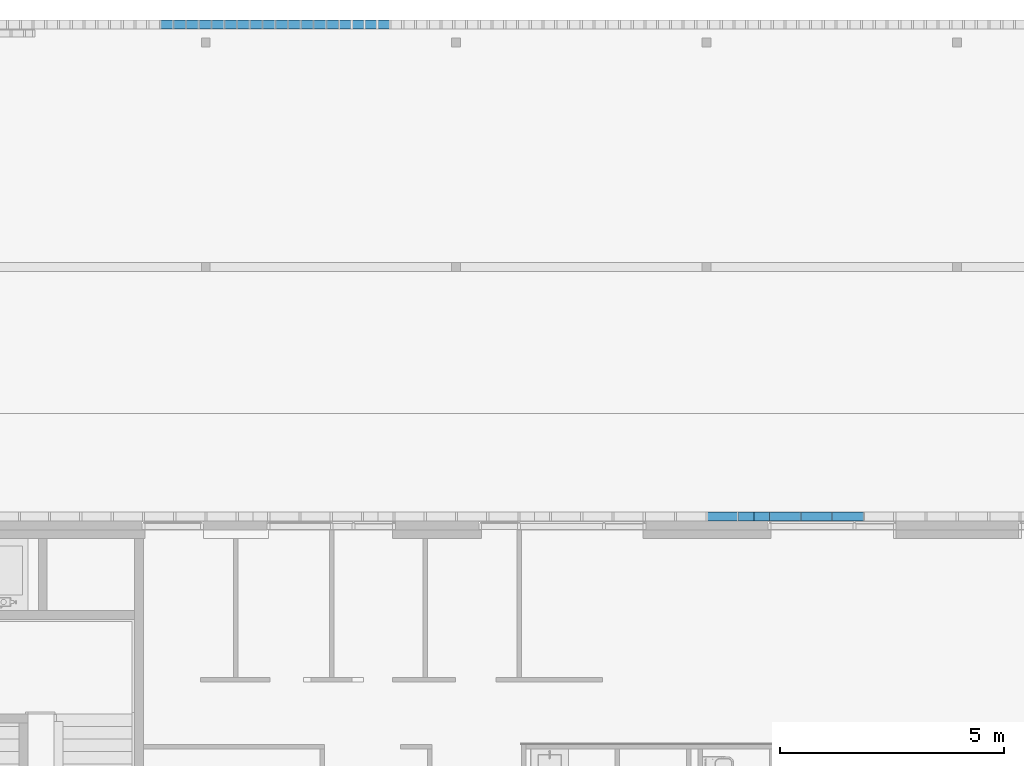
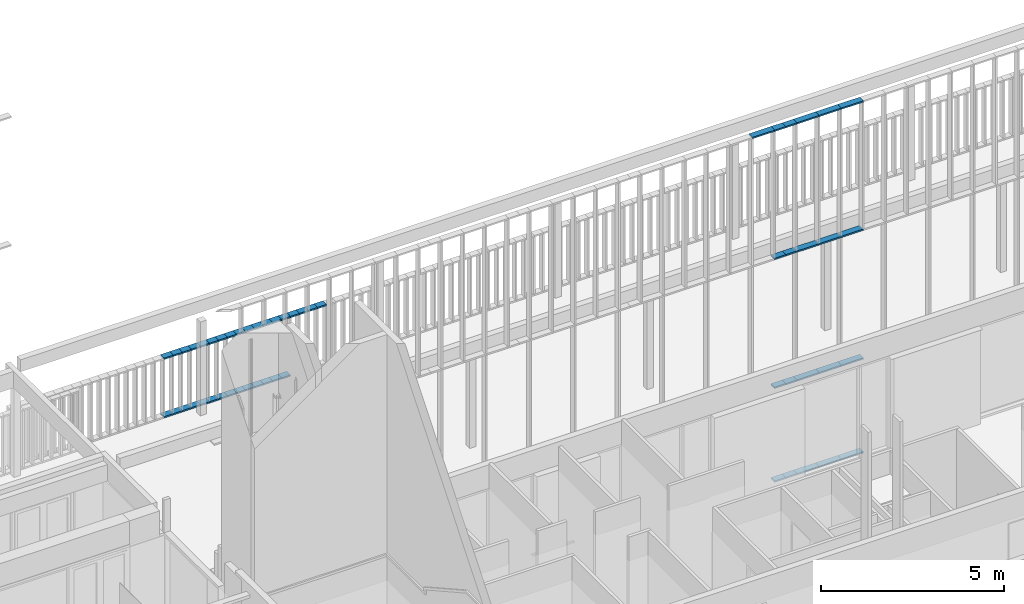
# One storey, part 52 of 240: 53 members, 2 elements without a shape of their own.
"""IFC2X3 building model written with IfcOpenShell, lengths in centimetres."""

from ifc_helpers import new_model, entity, si_unit, converted_unit, derived_unit, direction, frame, origin, origin_2d_with_axis, place, context, subcontext, project, spatial, rectangle, extrude, source, transform, mapped, material, type_object, type_shapes, element, aggregate, save


model = new_model("IFC2X3")

# Units and contexts
model_context = context("Model", 3, precision=0.001, world=origin(), true_north=direction((6.12303176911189e-17, 1.0)))
body_context = subcontext(model_context, "Body", "Model", "MODEL_VIEW")
ifc_project = project(units=[si_unit("LENGTHUNIT", "METRE", prefix="CENTI"), si_unit("AREAUNIT", "SQUARE_METRE"), si_unit("VOLUMEUNIT", "CUBIC_METRE"), converted_unit("PLANEANGLEUNIT", "DEGREE", entity("IfcRatioMeasure", 0.0174532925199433), si_unit("PLANEANGLEUNIT", "RADIAN"), dimensions=[0, 0, 0, 0, 0, 0, 0]), si_unit("MASSUNIT", "GRAM", prefix="KILO"), derived_unit("MASSDENSITYUNIT", [(si_unit("MASSUNIT", "GRAM", prefix="KILO"), 1), (si_unit("LENGTHUNIT", "METRE"), -3)]), si_unit("TIMEUNIT", "SECOND"), si_unit("FREQUENCYUNIT", "HERTZ"), si_unit("THERMODYNAMICTEMPERATUREUNIT", "DEGREE_CELSIUS"), derived_unit("THERMALTRANSMITTANCEUNIT", [(si_unit("MASSUNIT", "GRAM", prefix="KILO"), 1), (si_unit("THERMODYNAMICTEMPERATUREUNIT", "KELVIN"), -1), (si_unit("TIMEUNIT", "SECOND"), -3)]), derived_unit("VOLUMETRICFLOWRATEUNIT", [(si_unit("LENGTHUNIT", "METRE"), 3), (si_unit("TIMEUNIT", "SECOND"), -1)]), si_unit("ELECTRICCURRENTUNIT", "AMPERE"), si_unit("ELECTRICVOLTAGEUNIT", "VOLT"), si_unit("POWERUNIT", "WATT"), si_unit("FORCEUNIT", "NEWTON", prefix="KILO"), si_unit("ILLUMINANCEUNIT", "LUX"), si_unit("LUMINOUSFLUXUNIT", "LUMEN"), si_unit("LUMINOUSINTENSITYUNIT", "CANDELA"), derived_unit("USERDEFINED", [(si_unit("MASSUNIT", "GRAM", prefix="KILO"), -1), (si_unit("LENGTHUNIT", "METRE"), -2), (si_unit("TIMEUNIT", "SECOND"), 3), (si_unit("LUMINOUSFLUXUNIT", "LUMEN"), 1)]), derived_unit("LINEARVELOCITYUNIT", [(si_unit("LENGTHUNIT", "METRE"), 1), (si_unit("TIMEUNIT", "SECOND"), -1)]), si_unit("PRESSUREUNIT", "PASCAL"), derived_unit("USERDEFINED", [(si_unit("LENGTHUNIT", "METRE"), -2), (si_unit("MASSUNIT", "GRAM", prefix="KILO"), 1), (si_unit("TIMEUNIT", "SECOND"), -2)])], contexts=[model_context])

# Site, building, storey
site_placement = place(None, frame((-2781.94577612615, 7442.24238424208, 0.0)))
site = spatial("IfcSite", under=ifc_project, at=site_placement, Name="Default", CompositionType="ELEMENT")
building_placement = place(site_placement, origin())
building = spatial("IfcBuilding", under=site, at=building_placement, CompositionType="ELEMENT")
storey_placement = place(building_placement, origin())
storey = spatial("IfcBuildingStorey", under=building, at=storey_placement, Name="N00 - COO", CompositionType="ELEMENT", Elevation=0.0)

# Curtain wall, members
curtain_wall_type_1 = type_object("IfcCurtainWallType", Name="Mur-rideau:Epines - 200x30mm", PredefinedType="NOTDEFINED")
curtain_wall_1_placement = place(storey_placement, origin())
curtain_wall_1 = element("IfcCurtainWall", 1, at=curtain_wall_1_placement, inside=storey, type_object=curtain_wall_type_1, Name="Mur-rideau:Epines - 200x30mm", ObjectType="Mur-rideau:Epines - 200x30mm")
ifc_material = material(Name="Aluminium")
member_type_1 = type_object("IfcMemberType", Name="200x50 mm", PredefinedType="MEMBER")
shared_shape_1 = source(origin(), body_context, "Body", "SweptSolid", [
    extrude(rectangle(XDim=20.0, YDim=5.0, at=origin_2d_with_axis()), frame((-2.5, 0.0, -70.0), z_axis=(0.0, 0.0, 1.0), x_axis=(0.0, -1.0, 0.0)), (0.0, 0.0, 1.0), 70.0000000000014),
])
type_shapes(member_type_1, [shared_shape_1])
member_1_placement = place(storey_placement, frame((-1669.29988284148, -1060.0, 1176.0), z_axis=(1.0, 0.0, 0.0), x_axis=(0.0, 0.0, 1.0)))
member_1 = element("IfcMember", 2, at=member_1_placement, type_object=member_type_1, material=ifc_material, Name="Meneau rectangulaire:200x50 mm", ObjectType="Meneau rectangulaire:200x50 mm", context=body_context, shape_type="MappedRepresentation", body=[
    mapped(shared_shape_1, transform((0.0, 0.0, 0.0), scale=1.0)),
])
member_2_placement = place(storey_placement, frame((-1599.29988284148, -1060.0, 1176.0), z_axis=(1.0, 0.0, 0.0), x_axis=(0.0, 0.0, 1.0)))
member_2 = element("IfcMember", 3, at=member_2_placement, type_object=member_type_1, material=ifc_material, Name="Meneau rectangulaire:200x50 mm", ObjectType="Meneau rectangulaire:200x50 mm", context=body_context, shape_type="MappedRepresentation", body=[
    mapped(shared_shape_1, transform((0.0, 0.0, 0.0), scale=1.0)),
])
member_3_placement = place(storey_placement, frame((-1739.29988284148, -1060.0, 1176.0), z_axis=(1.0, 0.0, 0.0), x_axis=(0.0, 0.0, 1.0)))
member_3 = element("IfcMember", 4, at=member_3_placement, type_object=member_type_1, material=ifc_material, Name="Meneau rectangulaire:200x50 mm", ObjectType="Meneau rectangulaire:200x50 mm", context=body_context, shape_type="MappedRepresentation", body=[
    mapped(shared_shape_1, transform((0.0, 0.0, 0.0), scale=1.0)),
])
member_4_placement = place(storey_placement, frame((-1879.29988284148, -1060.0, 1176.0), z_axis=(1.0, 0.0, 0.0), x_axis=(0.0, 0.0, 1.0)))
member_4 = element("IfcMember", 5, at=member_4_placement, type_object=member_type_1, material=ifc_material, Name="Meneau rectangulaire:200x50 mm", ObjectType="Meneau rectangulaire:200x50 mm", context=body_context, shape_type="MappedRepresentation", body=[
    mapped(shared_shape_1, transform((0.0, 0.0, 0.0), scale=1.0)),
])
member_type_2 = type_object("IfcMemberType", Name="200x50 mm", PredefinedType="MEMBER")
shared_shape_2 = source(origin(), body_context, "Body", "SweptSolid", [
    extrude(rectangle(XDim=20.0, YDim=5.0, at=origin_2d_with_axis()), frame((-2.5, 0.0, -70.0), z_axis=(0.0, 0.0, 1.0), x_axis=(0.0, -1.0, 0.0)), (0.0, 0.0, 1.0), 70.0000000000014),
])
type_shapes(member_type_2, [shared_shape_2])
member_5_placement = place(storey_placement, frame((-1809.29988284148, -1060.0, 0.0), z_axis=(-1.0, 0.0, 0.0), x_axis=(0.0, 0.0, -1.0)))
member_5 = element("IfcMember", 6, at=member_5_placement, type_object=member_type_2, material=ifc_material, Name="Meneau rectangulaire:200x50 mm", ObjectType="Meneau rectangulaire:200x50 mm", context=body_context, shape_type="MappedRepresentation", body=[
    mapped(shared_shape_2, transform((0.0, 0.0, 0.0), scale=1.0)),
])
member_type_3 = type_object("IfcMemberType", Name="200x50 mm", PredefinedType="MEMBER")
shared_shape_3 = source(origin(), body_context, "Body", "SweptSolid", [
    extrude(rectangle(XDim=20.0, YDim=5.0, at=origin_2d_with_axis()), frame((0.0, 0.0, -70.0), z_axis=(0.0, 0.0, 1.0), x_axis=(0.0, -1.0, 0.0)), (0.0, 0.0, 1.0), 70.0000000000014),
])
type_shapes(member_type_3, [shared_shape_3])
member_6_placement = place(storey_placement, frame((-1739.29988284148, -1060.0, 315.5), z_axis=(1.0, 0.0, 0.0), x_axis=(0.0, 0.0, 1.0)))
member_6 = element("IfcMember", 7, at=member_6_placement, type_object=member_type_3, material=ifc_material, Name="Meneau rectangulaire:200x50 mm", ObjectType="Meneau rectangulaire:200x50 mm", context=body_context, shape_type="MappedRepresentation", body=[
    mapped(shared_shape_3, transform((0.0, 0.0, 0.0), scale=1.0)),
])
member_7_placement = place(storey_placement, frame((-1599.29988284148, -1060.0, 315.5), z_axis=(1.0, 0.0, 0.0), x_axis=(0.0, 0.0, 1.0)))
member_7 = element("IfcMember", 8, at=member_7_placement, type_object=member_type_3, material=ifc_material, Name="Meneau rectangulaire:200x50 mm", ObjectType="Meneau rectangulaire:200x50 mm", context=body_context, shape_type="MappedRepresentation", body=[
    mapped(shared_shape_3, transform((0.0, 0.0, 0.0), scale=1.0)),
])
member_type_4 = type_object("IfcMemberType", Name="200x50 mm", PredefinedType="MEMBER")
shared_shape_4 = source(origin(), body_context, "Body", "SweptSolid", [
    extrude(rectangle(XDim=20.0, YDim=5.0, at=origin_2d_with_axis()), frame((0.0, 0.0, -70.0), z_axis=(0.0, 0.0, 1.0), x_axis=(0.0, -1.0, 0.0)), (0.0, 0.0, 1.0), 70.0000000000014),
])
type_shapes(member_type_4, [shared_shape_4])
member_8_placement = place(storey_placement, frame((-1739.29988284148, -1060.0, 745.5), z_axis=(1.0, 0.0, 0.0), x_axis=(0.0, 0.0, 1.0)))
member_8 = element("IfcMember", 9, at=member_8_placement, type_object=member_type_4, material=ifc_material, Name="Meneau rectangulaire:200x50 mm", ObjectType="Meneau rectangulaire:200x50 mm", context=body_context, shape_type="MappedRepresentation", body=[
    mapped(shared_shape_4, transform((0.0, 0.0, 0.0), scale=1.0)),
])
member_9_placement = place(storey_placement, frame((-1599.29988284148, -1060.0, 745.5), z_axis=(1.0, 0.0, 0.0), x_axis=(0.0, 0.0, 1.0)))
member_9 = element("IfcMember", 10, at=member_9_placement, type_object=member_type_4, material=ifc_material, Name="Meneau rectangulaire:200x50 mm", ObjectType="Meneau rectangulaire:200x50 mm", context=body_context, shape_type="MappedRepresentation", body=[
    mapped(shared_shape_4, transform((0.0, 0.0, 0.0), scale=1.0)),
])
member_10_placement = place(storey_placement, frame((-1669.29988284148, -1060.0, 745.5), z_axis=(1.0, 0.0, 0.0), x_axis=(0.0, 0.0, 1.0)))
member_10 = element("IfcMember", 11, at=member_10_placement, type_object=member_type_4, material=ifc_material, Name="Meneau rectangulaire:200x50 mm", ObjectType="Meneau rectangulaire:200x50 mm", context=body_context, shape_type="MappedRepresentation", body=[
    mapped(shared_shape_4, transform((0.0, 0.0, 0.0), scale=1.0)),
])
member_type_5 = type_object("IfcMemberType", Name="200x50 mm", PredefinedType="MEMBER")
shared_shape_5 = source(origin(), body_context, "Body", "SweptSolid", [
    extrude(rectangle(XDim=20.0, YDim=5.0, at=origin_2d_with_axis()), frame((-2.5, 0.0, -70.0), z_axis=(0.0, 0.0, 1.0), x_axis=(0.0, -1.0, 0.0)), (0.0, 0.0, 1.0), 69.9999999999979),
])
type_shapes(member_type_5, [shared_shape_5])
member_11_placement = place(storey_placement, frame((-1669.29988284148, -1060.0, 0.0), z_axis=(-1.0, 0.0, 0.0), x_axis=(0.0, 0.0, -1.0)))
member_11 = element("IfcMember", 12, at=member_11_placement, type_object=member_type_5, material=ifc_material, Name="Meneau rectangulaire:200x50 mm", ObjectType="Meneau rectangulaire:200x50 mm", context=body_context, shape_type="MappedRepresentation", body=[
    mapped(shared_shape_5, transform((0.0, 0.0, 0.0), scale=1.0)),
])
member_12_placement = place(storey_placement, frame((-1739.29988284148, -1060.0, 0.0), z_axis=(-1.0, 0.0, 0.0), x_axis=(0.0, 0.0, -1.0)))
member_12 = element("IfcMember", 13, at=member_12_placement, type_object=member_type_5, material=ifc_material, Name="Meneau rectangulaire:200x50 mm", ObjectType="Meneau rectangulaire:200x50 mm", context=body_context, shape_type="MappedRepresentation", body=[
    mapped(shared_shape_5, transform((0.0, 0.0, 0.0), scale=1.0)),
])
member_type_6 = type_object("IfcMemberType", Name="200x50 mm", PredefinedType="MEMBER")
shared_shape_6 = source(origin(), body_context, "Body", "SweptSolid", [
    extrude(rectangle(XDim=20.0, YDim=5.0, at=origin_2d_with_axis()), frame((0.0, 0.0, -70.0), z_axis=(0.0, 0.0, 1.0), x_axis=(0.0, -1.0, 0.0)), (0.0, 0.0, 1.0), 70.0000000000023),
])
type_shapes(member_type_6, [shared_shape_6])
member_13_placement = place(storey_placement, frame((-1669.29988284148, -1060.0, 315.5), z_axis=(1.0, 0.0, 0.0), x_axis=(0.0, 0.0, 1.0)))
member_13 = element("IfcMember", 14, at=member_13_placement, type_object=member_type_6, material=ifc_material, Name="Meneau rectangulaire:200x50 mm", ObjectType="Meneau rectangulaire:200x50 mm", context=body_context, shape_type="MappedRepresentation", body=[
    mapped(shared_shape_6, transform((0.0, 0.0, 0.0), scale=1.0)),
])

curtain_wall_type_2 = type_object("IfcCurtainWallType", Name="Mur-rideau:SR-Clôture", PredefinedType="NOTDEFINED")
curtain_wall_2_placement = place(building_placement, origin())
curtain_wall_2 = element("IfcCurtainWall", 15, at=curtain_wall_2_placement, inside=storey, type_object=curtain_wall_type_2, Name="Mur-rideau:SR-Clôture", ObjectType="Mur-rideau:SR-Clôture")
member_type_7 = type_object("IfcMemberType", Name="Epine nord (200x50 mm)", PredefinedType="MEMBER")
shared_shape_7 = source(origin(), body_context, "Body", "SweptSolid", [
    extrude(rectangle(XDim=20.0, YDim=5.0, at=origin_2d_with_axis()), frame((-2.5, 0.0, -28.5000000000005), z_axis=(0.0, 0.0, 1.0), x_axis=(0.0, -1.0, 0.0)), (0.0, 0.0, 1.0), 28.5000000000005),
])
type_shapes(member_type_7, [shared_shape_7])
member_14_placement = place(building_placement, frame((-3142.49987965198, 40.0, 200.0), z_axis=(1.0, 0.0, 0.0), x_axis=(0.0, 0.0, 1.0)))
member_14 = element("IfcMember", 16, at=member_14_placement, type_object=member_type_7, material=ifc_material, Name="Meneau rectangulaire:Epine nord (200x50 mm)", ObjectType="Meneau rectangulaire:Epine nord (200x50 mm)", context=body_context, shape_type="MappedRepresentation", body=[
    mapped(shared_shape_7, transform((0.0, 0.0, 0.0), scale=1.0)),
])
member_15_placement = place(building_placement, frame((-3113.99987965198, 40.0, 200.0), z_axis=(1.0, 0.0, 0.0), x_axis=(0.0, 0.0, 1.0)))
member_15 = element("IfcMember", 17, at=member_15_placement, type_object=member_type_7, material=ifc_material, Name="Meneau rectangulaire:Epine nord (200x50 mm)", ObjectType="Meneau rectangulaire:Epine nord (200x50 mm)", context=body_context, shape_type="MappedRepresentation", body=[
    mapped(shared_shape_7, transform((0.0, 0.0, 0.0), scale=1.0)),
])
member_16_placement = place(building_placement, frame((-3085.49987965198, 40.0, 200.0), z_axis=(1.0, 0.0, 0.0), x_axis=(0.0, 0.0, 1.0)))
member_16 = element("IfcMember", 18, at=member_16_placement, type_object=member_type_7, material=ifc_material, Name="Meneau rectangulaire:Epine nord (200x50 mm)", ObjectType="Meneau rectangulaire:Epine nord (200x50 mm)", context=body_context, shape_type="MappedRepresentation", body=[
    mapped(shared_shape_7, transform((0.0, 0.0, 0.0), scale=1.0)),
])
member_17_placement = place(building_placement, frame((-3056.99987965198, 40.0, 200.0), z_axis=(1.0, 0.0, 0.0), x_axis=(0.0, 0.0, 1.0)))
member_17 = element("IfcMember", 19, at=member_17_placement, type_object=member_type_7, material=ifc_material, Name="Meneau rectangulaire:Epine nord (200x50 mm)", ObjectType="Meneau rectangulaire:Epine nord (200x50 mm)", context=body_context, shape_type="MappedRepresentation", body=[
    mapped(shared_shape_7, transform((0.0, 0.0, 0.0), scale=1.0)),
])
member_18_placement = place(building_placement, frame((-3028.49987965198, 40.0, 200.0), z_axis=(1.0, 0.0, 0.0), x_axis=(0.0, 0.0, 1.0)))
member_18 = element("IfcMember", 20, at=member_18_placement, type_object=member_type_7, material=ifc_material, Name="Meneau rectangulaire:Epine nord (200x50 mm)", ObjectType="Meneau rectangulaire:Epine nord (200x50 mm)", context=body_context, shape_type="MappedRepresentation", body=[
    mapped(shared_shape_7, transform((0.0, 0.0, 0.0), scale=1.0)),
])
member_19_placement = place(building_placement, frame((-2999.99987965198, 40.0, 200.0), z_axis=(1.0, 0.0, 0.0), x_axis=(0.0, 0.0, 1.0)))
member_19 = element("IfcMember", 21, at=member_19_placement, type_object=member_type_7, material=ifc_material, Name="Meneau rectangulaire:Epine nord (200x50 mm)", ObjectType="Meneau rectangulaire:Epine nord (200x50 mm)", context=body_context, shape_type="MappedRepresentation", body=[
    mapped(shared_shape_7, transform((0.0, 0.0, 0.0), scale=1.0)),
])
member_20_placement = place(building_placement, frame((-2971.49987965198, 40.0, 200.0), z_axis=(1.0, 0.0, 0.0), x_axis=(0.0, 0.0, 1.0)))
member_20 = element("IfcMember", 22, at=member_20_placement, type_object=member_type_7, material=ifc_material, Name="Meneau rectangulaire:Epine nord (200x50 mm)", ObjectType="Meneau rectangulaire:Epine nord (200x50 mm)", context=body_context, shape_type="MappedRepresentation", body=[
    mapped(shared_shape_7, transform((0.0, 0.0, 0.0), scale=1.0)),
])
member_21_placement = place(building_placement, frame((-2942.99987965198, 40.0, 200.0), z_axis=(1.0, 0.0, 0.0), x_axis=(0.0, 0.0, 1.0)))
member_21 = element("IfcMember", 23, at=member_21_placement, type_object=member_type_7, material=ifc_material, Name="Meneau rectangulaire:Epine nord (200x50 mm)", ObjectType="Meneau rectangulaire:Epine nord (200x50 mm)", context=body_context, shape_type="MappedRepresentation", body=[
    mapped(shared_shape_7, transform((0.0, 0.0, 0.0), scale=1.0)),
])
member_22_placement = place(building_placement, frame((-2914.49987965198, 40.0, 200.0), z_axis=(1.0, 0.0, 0.0), x_axis=(0.0, 0.0, 1.0)))
member_22 = element("IfcMember", 24, at=member_22_placement, type_object=member_type_7, material=ifc_material, Name="Meneau rectangulaire:Epine nord (200x50 mm)", ObjectType="Meneau rectangulaire:Epine nord (200x50 mm)", context=body_context, shape_type="MappedRepresentation", body=[
    mapped(shared_shape_7, transform((0.0, 0.0, 0.0), scale=1.0)),
])
member_23_placement = place(building_placement, frame((-2885.99987965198, 40.0, 200.0), z_axis=(1.0, 0.0, 0.0), x_axis=(0.0, 0.0, 1.0)))
member_23 = element("IfcMember", 25, at=member_23_placement, type_object=member_type_7, material=ifc_material, Name="Meneau rectangulaire:Epine nord (200x50 mm)", ObjectType="Meneau rectangulaire:Epine nord (200x50 mm)", context=body_context, shape_type="MappedRepresentation", body=[
    mapped(shared_shape_7, transform((0.0, 0.0, 0.0), scale=1.0)),
])
member_24_placement = place(building_placement, frame((-2857.49987965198, 40.0, 200.0), z_axis=(1.0, 0.0, 0.0), x_axis=(0.0, 0.0, 1.0)))
member_24 = element("IfcMember", 26, at=member_24_placement, type_object=member_type_7, material=ifc_material, Name="Meneau rectangulaire:Epine nord (200x50 mm)", ObjectType="Meneau rectangulaire:Epine nord (200x50 mm)", context=body_context, shape_type="MappedRepresentation", body=[
    mapped(shared_shape_7, transform((0.0, 0.0, 0.0), scale=1.0)),
])
member_25_placement = place(building_placement, frame((-2828.99987965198, 40.0, 200.0), z_axis=(1.0, 0.0, 0.0), x_axis=(0.0, 0.0, 1.0)))
member_25 = element("IfcMember", 27, at=member_25_placement, type_object=member_type_7, material=ifc_material, Name="Meneau rectangulaire:Epine nord (200x50 mm)", ObjectType="Meneau rectangulaire:Epine nord (200x50 mm)", context=body_context, shape_type="MappedRepresentation", body=[
    mapped(shared_shape_7, transform((0.0, 0.0, 0.0), scale=1.0)),
])
member_26_placement = place(building_placement, frame((-2800.49987965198, 40.0, 200.0), z_axis=(1.0, 0.0, 0.0), x_axis=(0.0, 0.0, 1.0)))
member_26 = element("IfcMember", 28, at=member_26_placement, type_object=member_type_7, material=ifc_material, Name="Meneau rectangulaire:Epine nord (200x50 mm)", ObjectType="Meneau rectangulaire:Epine nord (200x50 mm)", context=body_context, shape_type="MappedRepresentation", body=[
    mapped(shared_shape_7, transform((0.0, 0.0, 0.0), scale=1.0)),
])
member_27_placement = place(building_placement, frame((-2771.99987965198, 40.0, 200.0), z_axis=(1.0, 0.0, 0.0), x_axis=(0.0, 0.0, 1.0)))
member_27 = element("IfcMember", 29, at=member_27_placement, type_object=member_type_7, material=ifc_material, Name="Meneau rectangulaire:Epine nord (200x50 mm)", ObjectType="Meneau rectangulaire:Epine nord (200x50 mm)", context=body_context, shape_type="MappedRepresentation", body=[
    mapped(shared_shape_7, transform((0.0, 0.0, 0.0), scale=1.0)),
])
member_28_placement = place(building_placement, frame((-2743.49987965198, 40.0, 200.0), z_axis=(1.0, 0.0, 0.0), x_axis=(0.0, 0.0, 1.0)))
member_28 = element("IfcMember", 30, at=member_28_placement, type_object=member_type_7, material=ifc_material, Name="Meneau rectangulaire:Epine nord (200x50 mm)", ObjectType="Meneau rectangulaire:Epine nord (200x50 mm)", context=body_context, shape_type="MappedRepresentation", body=[
    mapped(shared_shape_7, transform((0.0, 0.0, 0.0), scale=1.0)),
])
member_29_placement = place(building_placement, frame((-2714.99987965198, 40.0, 200.0), z_axis=(1.0, 0.0, 0.0), x_axis=(0.0, 0.0, 1.0)))
member_29 = element("IfcMember", 31, at=member_29_placement, type_object=member_type_7, material=ifc_material, Name="Meneau rectangulaire:Epine nord (200x50 mm)", ObjectType="Meneau rectangulaire:Epine nord (200x50 mm)", context=body_context, shape_type="MappedRepresentation", body=[
    mapped(shared_shape_7, transform((0.0, 0.0, 0.0), scale=1.0)),
])
member_30_placement = place(building_placement, frame((-2686.49987965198, 40.0, 200.0), z_axis=(1.0, 0.0, 0.0), x_axis=(0.0, 0.0, 1.0)))
member_30 = element("IfcMember", 32, at=member_30_placement, type_object=member_type_7, material=ifc_material, Name="Meneau rectangulaire:Epine nord (200x50 mm)", ObjectType="Meneau rectangulaire:Epine nord (200x50 mm)", context=body_context, shape_type="MappedRepresentation", body=[
    mapped(shared_shape_7, transform((0.0, 0.0, 0.0), scale=1.0)),
])
member_31_placement = place(building_placement, frame((-2657.99987965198, 40.0, 200.0), z_axis=(1.0, 0.0, 0.0), x_axis=(0.0, 0.0, 1.0)))
member_31 = element("IfcMember", 33, at=member_31_placement, type_object=member_type_7, material=ifc_material, Name="Meneau rectangulaire:Epine nord (200x50 mm)", ObjectType="Meneau rectangulaire:Epine nord (200x50 mm)", context=body_context, shape_type="MappedRepresentation", body=[
    mapped(shared_shape_7, transform((0.0, 0.0, 0.0), scale=1.0)),
])
member_type_8 = type_object("IfcMemberType", Name="Epine nord (200x50 mm)", PredefinedType="MEMBER")
shared_shape_8 = source(origin(), body_context, "Body", "SweptSolid", [
    extrude(rectangle(XDim=20.0, YDim=5.0, at=origin_2d_with_axis()), frame((-2.5, 0.0, -28.5000000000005), z_axis=(0.0, 0.0, 1.0), x_axis=(0.0, -1.0, 0.0)), (0.0, 0.0, 1.0), 28.5000000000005),
])
type_shapes(member_type_8, [shared_shape_8])
member_32_placement = place(building_placement, frame((-3170.99987965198, 40.0, 0.0), z_axis=(-1.0, 0.0, 0.0), x_axis=(0.0, 0.0, -1.0)))
member_32 = element("IfcMember", 34, at=member_32_placement, type_object=member_type_8, material=ifc_material, Name="Meneau rectangulaire:Epine nord (200x50 mm)", ObjectType="Meneau rectangulaire:Epine nord (200x50 mm)", context=body_context, shape_type="MappedRepresentation", body=[
    mapped(shared_shape_8, transform((0.0, 0.0, 0.0), scale=1.0)),
])
member_33_placement = place(building_placement, frame((-3142.49987965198, 40.0, 0.0), z_axis=(-1.0, 0.0, 0.0), x_axis=(0.0, 0.0, -1.0)))
member_33 = element("IfcMember", 35, at=member_33_placement, type_object=member_type_8, material=ifc_material, Name="Meneau rectangulaire:Epine nord (200x50 mm)", ObjectType="Meneau rectangulaire:Epine nord (200x50 mm)", context=body_context, shape_type="MappedRepresentation", body=[
    mapped(shared_shape_8, transform((0.0, 0.0, 0.0), scale=1.0)),
])
member_34_placement = place(building_placement, frame((-3113.99987965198, 40.0, 0.0), z_axis=(-1.0, 0.0, 0.0), x_axis=(0.0, 0.0, -1.0)))
member_34 = element("IfcMember", 36, at=member_34_placement, type_object=member_type_8, material=ifc_material, Name="Meneau rectangulaire:Epine nord (200x50 mm)", ObjectType="Meneau rectangulaire:Epine nord (200x50 mm)", context=body_context, shape_type="MappedRepresentation", body=[
    mapped(shared_shape_8, transform((0.0, 0.0, 0.0), scale=1.0)),
])
member_35_placement = place(building_placement, frame((-3085.49987965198, 40.0, 0.0), z_axis=(-1.0, 0.0, 0.0), x_axis=(0.0, 0.0, -1.0)))
member_35 = element("IfcMember", 37, at=member_35_placement, type_object=member_type_8, material=ifc_material, Name="Meneau rectangulaire:Epine nord (200x50 mm)", ObjectType="Meneau rectangulaire:Epine nord (200x50 mm)", context=body_context, shape_type="MappedRepresentation", body=[
    mapped(shared_shape_8, transform((0.0, 0.0, 0.0), scale=1.0)),
])
member_36_placement = place(building_placement, frame((-3056.99987965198, 40.0, 0.0), z_axis=(-1.0, 0.0, 0.0), x_axis=(0.0, 0.0, -1.0)))
member_36 = element("IfcMember", 38, at=member_36_placement, type_object=member_type_8, material=ifc_material, Name="Meneau rectangulaire:Epine nord (200x50 mm)", ObjectType="Meneau rectangulaire:Epine nord (200x50 mm)", context=body_context, shape_type="MappedRepresentation", body=[
    mapped(shared_shape_8, transform((0.0, 0.0, 0.0), scale=1.0)),
])
member_37_placement = place(building_placement, frame((-3028.49987965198, 40.0, 0.0), z_axis=(-1.0, 0.0, 0.0), x_axis=(0.0, 0.0, -1.0)))
member_37 = element("IfcMember", 39, at=member_37_placement, type_object=member_type_8, material=ifc_material, Name="Meneau rectangulaire:Epine nord (200x50 mm)", ObjectType="Meneau rectangulaire:Epine nord (200x50 mm)", context=body_context, shape_type="MappedRepresentation", body=[
    mapped(shared_shape_8, transform((0.0, 0.0, 0.0), scale=1.0)),
])
member_38_placement = place(building_placement, frame((-2999.99987965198, 40.0, 0.0), z_axis=(-1.0, 0.0, 0.0), x_axis=(0.0, 0.0, -1.0)))
member_38 = element("IfcMember", 40, at=member_38_placement, type_object=member_type_8, material=ifc_material, Name="Meneau rectangulaire:Epine nord (200x50 mm)", ObjectType="Meneau rectangulaire:Epine nord (200x50 mm)", context=body_context, shape_type="MappedRepresentation", body=[
    mapped(shared_shape_8, transform((0.0, 0.0, 0.0), scale=1.0)),
])
member_39_placement = place(building_placement, frame((-2971.49987965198, 40.0, 0.0), z_axis=(-1.0, 0.0, 0.0), x_axis=(0.0, 0.0, -1.0)))
member_39 = element("IfcMember", 41, at=member_39_placement, type_object=member_type_8, material=ifc_material, Name="Meneau rectangulaire:Epine nord (200x50 mm)", ObjectType="Meneau rectangulaire:Epine nord (200x50 mm)", context=body_context, shape_type="MappedRepresentation", body=[
    mapped(shared_shape_8, transform((0.0, 0.0, 0.0), scale=1.0)),
])
member_40_placement = place(building_placement, frame((-2942.99987965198, 40.0, 0.0), z_axis=(-1.0, 0.0, 0.0), x_axis=(0.0, 0.0, -1.0)))
member_40 = element("IfcMember", 42, at=member_40_placement, type_object=member_type_8, material=ifc_material, Name="Meneau rectangulaire:Epine nord (200x50 mm)", ObjectType="Meneau rectangulaire:Epine nord (200x50 mm)", context=body_context, shape_type="MappedRepresentation", body=[
    mapped(shared_shape_8, transform((0.0, 0.0, 0.0), scale=1.0)),
])
member_41_placement = place(building_placement, frame((-2914.49987965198, 40.0, 0.0), z_axis=(-1.0, 0.0, 0.0), x_axis=(0.0, 0.0, -1.0)))
member_41 = element("IfcMember", 43, at=member_41_placement, type_object=member_type_8, material=ifc_material, Name="Meneau rectangulaire:Epine nord (200x50 mm)", ObjectType="Meneau rectangulaire:Epine nord (200x50 mm)", context=body_context, shape_type="MappedRepresentation", body=[
    mapped(shared_shape_8, transform((0.0, 0.0, 0.0), scale=1.0)),
])
member_42_placement = place(building_placement, frame((-2885.99987965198, 40.0, 0.0), z_axis=(-1.0, 0.0, 0.0), x_axis=(0.0, 0.0, -1.0)))
member_42 = element("IfcMember", 44, at=member_42_placement, type_object=member_type_8, material=ifc_material, Name="Meneau rectangulaire:Epine nord (200x50 mm)", ObjectType="Meneau rectangulaire:Epine nord (200x50 mm)", context=body_context, shape_type="MappedRepresentation", body=[
    mapped(shared_shape_8, transform((0.0, 0.0, 0.0), scale=1.0)),
])
member_43_placement = place(building_placement, frame((-2857.49987965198, 40.0, 0.0), z_axis=(-1.0, 0.0, 0.0), x_axis=(0.0, 0.0, -1.0)))
member_43 = element("IfcMember", 45, at=member_43_placement, type_object=member_type_8, material=ifc_material, Name="Meneau rectangulaire:Epine nord (200x50 mm)", ObjectType="Meneau rectangulaire:Epine nord (200x50 mm)", context=body_context, shape_type="MappedRepresentation", body=[
    mapped(shared_shape_8, transform((0.0, 0.0, 0.0), scale=1.0)),
])
member_44_placement = place(building_placement, frame((-2828.99987965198, 40.0, 0.0), z_axis=(-1.0, 0.0, 0.0), x_axis=(0.0, 0.0, -1.0)))
member_44 = element("IfcMember", 46, at=member_44_placement, type_object=member_type_8, material=ifc_material, Name="Meneau rectangulaire:Epine nord (200x50 mm)", ObjectType="Meneau rectangulaire:Epine nord (200x50 mm)", context=body_context, shape_type="MappedRepresentation", body=[
    mapped(shared_shape_8, transform((0.0, 0.0, 0.0), scale=1.0)),
])
member_45_placement = place(building_placement, frame((-2800.49987965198, 40.0, 0.0), z_axis=(-1.0, 0.0, 0.0), x_axis=(0.0, 0.0, -1.0)))
member_45 = element("IfcMember", 47, at=member_45_placement, type_object=member_type_8, material=ifc_material, Name="Meneau rectangulaire:Epine nord (200x50 mm)", ObjectType="Meneau rectangulaire:Epine nord (200x50 mm)", context=body_context, shape_type="MappedRepresentation", body=[
    mapped(shared_shape_8, transform((0.0, 0.0, 0.0), scale=1.0)),
])
aggregate(curtain_wall_2, [member_14, member_15, member_16, member_17, member_18, member_19, member_20, member_21, member_22, member_23, member_24, member_25, member_26, member_27, member_28, member_29, member_30, member_31, member_32, member_33, member_34, member_35, member_36, member_37, member_38, member_39, member_40, member_41, member_42, member_43, member_44, member_45])

# Member
member_type_9 = type_object("IfcMemberType", Name="200x50 mm", PredefinedType="MEMBER")
shared_shape_9 = source(origin(), body_context, "Body", "SweptSolid", [
    extrude(rectangle(XDim=20.0, YDim=5.0, at=origin_2d_with_axis()), frame((-2.5, 0.0, -35.0), z_axis=(0.0, 0.0, 1.0), x_axis=(0.0, -1.0, 0.0)), (0.0, 0.0, 1.0), 35.0000000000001),
])
type_shapes(member_type_9, [shared_shape_9])
member_46_placement = place(storey_placement, frame((-1809.29988284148, -1060.0, 1176.0), z_axis=(1.0, 0.0, 0.0), x_axis=(0.0, 0.0, 1.0)))
member_46 = element("IfcMember", 48, at=member_46_placement, type_object=member_type_9, material=ifc_material, Name="Meneau rectangulaire:200x50 mm", ObjectType="Meneau rectangulaire:200x50 mm", context=body_context, shape_type="MappedRepresentation", body=[
    mapped(shared_shape_9, transform((0.0, 0.0, 0.0), scale=1.0)),
])

member_type_10 = type_object("IfcMemberType", Name="200x50 mm", PredefinedType="MEMBER")
shared_shape_10 = source(origin(), body_context, "Body", "SweptSolid", [
    extrude(rectangle(XDim=20.0, YDim=5.0, at=origin_2d_with_axis()), frame((0.0, 0.0, -35.0), z_axis=(0.0, 0.0, 1.0), x_axis=(0.0, -1.0, 0.0)), (0.0, 0.0, 1.0), 34.9999999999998),
])
type_shapes(member_type_10, [shared_shape_10])
member_47_placement = place(storey_placement, frame((-1844.29988284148, -1060.0, 745.5), z_axis=(1.0, 0.0, 0.0), x_axis=(0.0, 0.0, 1.0)))
member_47 = element("IfcMember", 49, at=member_47_placement, type_object=member_type_10, material=ifc_material, Name="Meneau rectangulaire:200x50 mm", ObjectType="Meneau rectangulaire:200x50 mm", context=body_context, shape_type="MappedRepresentation", body=[
    mapped(shared_shape_10, transform((0.0, 0.0, 0.0), scale=1.0)),
])

member_type_11 = type_object("IfcMemberType", Name="200x50 mm", PredefinedType="MEMBER")
shared_shape_11 = source(origin(), body_context, "Body", "SweptSolid", [
    extrude(rectangle(XDim=20.0, YDim=5.0, at=origin_2d_with_axis()), frame((-2.5, 0.0, -35.0), z_axis=(0.0, 0.0, 1.0), x_axis=(0.0, -1.0, 0.0)), (0.0, 0.0, 1.0), 35.0000000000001),
])
type_shapes(member_type_11, [shared_shape_11])
member_48_placement = place(storey_placement, frame((-1879.29988284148, -1060.0, 0.0), z_axis=(-1.0, 0.0, 0.0), x_axis=(0.0, 0.0, -1.0)))
member_48 = element("IfcMember", 50, at=member_48_placement, type_object=member_type_11, material=ifc_material, Name="Meneau rectangulaire:200x50 mm", ObjectType="Meneau rectangulaire:200x50 mm", context=body_context, shape_type="MappedRepresentation", body=[
    mapped(shared_shape_11, transform((0.0, 0.0, 0.0), scale=1.0)),
])

member_type_12 = type_object("IfcMemberType", Name="200x50 mm", PredefinedType="MEMBER")
shared_shape_12 = source(origin(), body_context, "Body", "SweptSolid", [
    extrude(rectangle(XDim=20.0, YDim=5.0, at=origin_2d_with_axis()), frame((0.0, 0.0, -35.0), z_axis=(0.0, 0.0, 1.0), x_axis=(0.0, -1.0, 0.0)), (0.0, 0.0, 1.0), 35.0000000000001),
])
type_shapes(member_type_12, [shared_shape_12])
member_49_placement = place(storey_placement, frame((-1844.29988284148, -1060.0, 315.5), z_axis=(1.0, 0.0, 0.0), x_axis=(0.0, 0.0, 1.0)))
member_49 = element("IfcMember", 51, at=member_49_placement, type_object=member_type_12, material=ifc_material, Name="Meneau rectangulaire:200x50 mm", ObjectType="Meneau rectangulaire:200x50 mm", context=body_context, shape_type="MappedRepresentation", body=[
    mapped(shared_shape_12, transform((0.0, 0.0, 0.0), scale=1.0)),
])

member_type_13 = type_object("IfcMemberType", Name="200x50 mm", PredefinedType="MEMBER")
shared_shape_13 = source(origin(), body_context, "Body", "SweptSolid", [
    extrude(rectangle(XDim=20.0, YDim=5.0, at=origin_2d_with_axis()), frame((-2.5, 0.0, -35.0), z_axis=(0.0, 0.0, 1.0), x_axis=(0.0, -1.0, 0.0)), (0.0, 0.0, 1.0), 34.9999999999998),
])
type_shapes(member_type_13, [shared_shape_13])
member_50_placement = place(storey_placement, frame((-1844.29988284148, -1060.0, 1176.0), z_axis=(1.0, 0.0, 0.0), x_axis=(0.0, 0.0, 1.0)))
member_50 = element("IfcMember", 52, at=member_50_placement, type_object=member_type_13, material=ifc_material, Name="Meneau rectangulaire:200x50 mm", ObjectType="Meneau rectangulaire:200x50 mm", context=body_context, shape_type="MappedRepresentation", body=[
    mapped(shared_shape_13, transform((0.0, 0.0, 0.0), scale=1.0)),
])

member_type_14 = type_object("IfcMemberType", Name="200x50 mm", PredefinedType="MEMBER")
shared_shape_14 = source(origin(), body_context, "Body", "SweptSolid", [
    extrude(rectangle(XDim=20.0, YDim=5.0, at=origin_2d_with_axis()), frame((0.0, 0.0, -35.0), z_axis=(0.0, 0.0, 1.0), x_axis=(0.0, -1.0, 0.0)), (0.0, 0.0, 1.0), 35.0000000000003),
])
type_shapes(member_type_14, [shared_shape_14])
member_51_placement = place(storey_placement, frame((-1809.29988284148, -1060.0, 315.5), z_axis=(1.0, 0.0, 0.0), x_axis=(0.0, 0.0, 1.0)))
member_51 = element("IfcMember", 53, at=member_51_placement, type_object=member_type_14, material=ifc_material, Name="Meneau rectangulaire:200x50 mm", ObjectType="Meneau rectangulaire:200x50 mm", context=body_context, shape_type="MappedRepresentation", body=[
    mapped(shared_shape_14, transform((0.0, 0.0, 0.0), scale=1.0)),
])

member_52_placement = place(storey_placement, frame((-1809.29988284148, -1060.0, 745.5), z_axis=(1.0, 0.0, 0.0), x_axis=(0.0, 0.0, 1.0)))
member_52 = element("IfcMember", 54, at=member_52_placement, type_object=member_type_14, material=ifc_material, Name="Meneau rectangulaire:200x50 mm", ObjectType="Meneau rectangulaire:200x50 mm", context=body_context, shape_type="MappedRepresentation", body=[
    mapped(shared_shape_14, transform((0.0, 0.0, 0.0), scale=1.0)),
])

member_type_15 = type_object("IfcMemberType", Name="200x50 mm", PredefinedType="MEMBER")
shared_shape_15 = source(origin(), body_context, "Body", "SweptSolid", [
    extrude(rectangle(XDim=20.0, YDim=5.0, at=origin_2d_with_axis()), frame((-2.5, 0.0, -35.0), z_axis=(0.0, 0.0, 1.0), x_axis=(0.0, -1.0, 0.0)), (0.0, 0.0, 1.0), 35.0000000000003),
])
type_shapes(member_type_15, [shared_shape_15])
member_53_placement = place(storey_placement, frame((-1844.29988284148, -1060.0, 0.0), z_axis=(-1.0, 0.0, 0.0), x_axis=(0.0, 0.0, -1.0)))
member_53 = element("IfcMember", 55, at=member_53_placement, type_object=member_type_15, material=ifc_material, Name="Meneau rectangulaire:200x50 mm", ObjectType="Meneau rectangulaire:200x50 mm", context=body_context, shape_type="MappedRepresentation", body=[
    mapped(shared_shape_15, transform((0.0, 0.0, 0.0), scale=1.0)),
])

aggregate(curtain_wall_1, [member_46, member_5, member_6, member_8, member_1, member_11, member_7, member_9, member_2, member_3, member_12, member_13, member_10, member_4, member_48, member_49, member_47, member_50, member_53, member_51, member_52])

save(model, "model.ifc")
